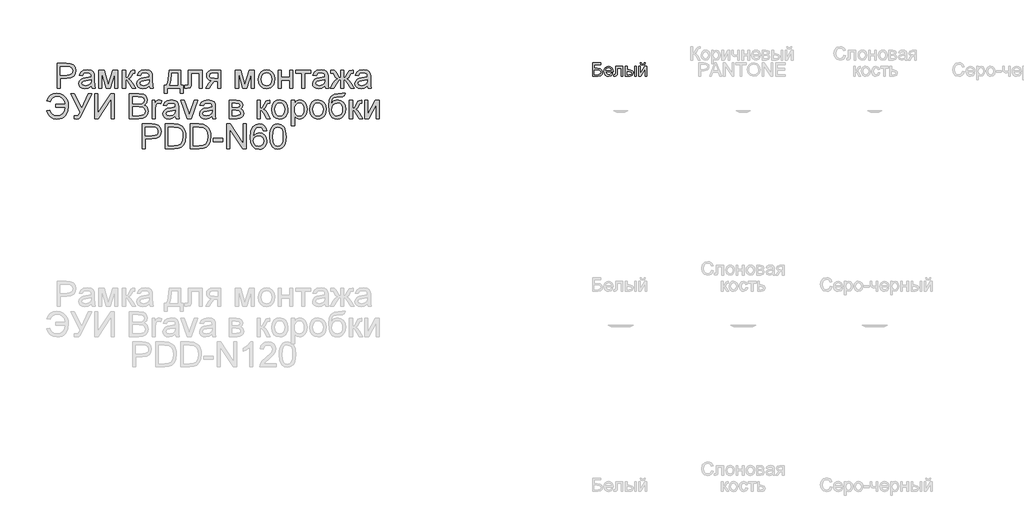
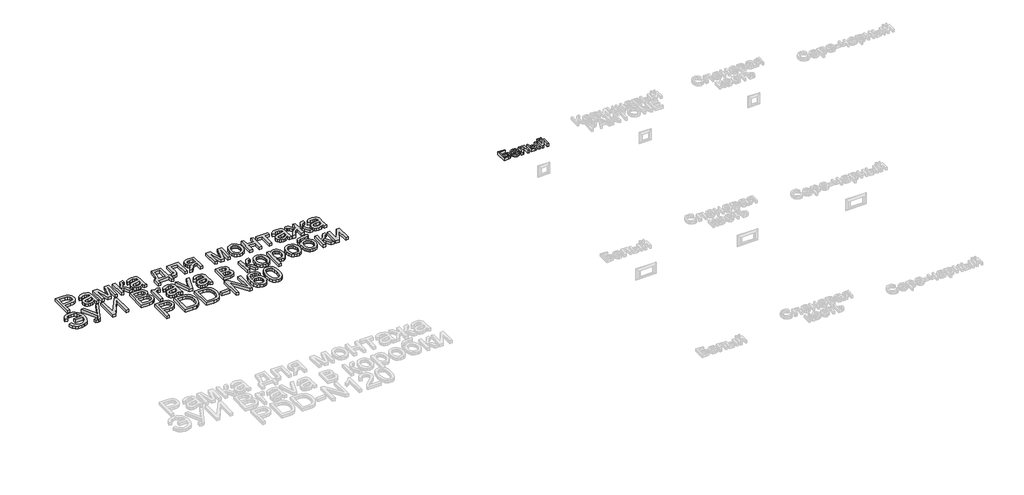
# One storey, part 43 of 47: 2 proxies.
"""IFC4 building model written with IfcOpenShell, lengths in millimetres."""

from ifc_helpers import new_model, si_unit, origin, origin_with_axes, place, context, project, spatial, polyline, outline, extrude, element, save

model = new_model("IFC4")

# Units and contexts
model_context = context("Model", 3, world=origin())
ifc_project = project(units=[si_unit("LENGTHUNIT", "METRE", prefix="MILLI")], contexts=[model_context])

# Site, building, storey
site = spatial("IfcSite", under=ifc_project)
building = spatial("IfcBuilding", under=site)
storey = spatial("IfcBuildingStorey", under=building, Name="Этаж 01", Elevation=0.0)

# Proxies
placement = place(None, origin())
element("IfcBuildingElementProxy", 1, Name="150 мм Arial", ObjectType="150 мм Arial", at=placement, inside=storey, context=model_context, shape_type="SweptSolid", body=[
    extrude(outline(polyline([(-3403.4986695, 4182.8209308), (-3403.4986695, 4333.505396), (-3347.6541827, 4333.505396), (-3325.1398046, 4332.0706562), (-3306.8376753, 4325.025716), (-3294.973481, 4310.457589), (-3290.4853206, 4289.9113796), (-3293.5157486, 4272.1518763), (-3302.6070324, 4257.353823), (-3319.6077791, 4247.3658268), (-3346.3665957, 4244.0364948), (-3384.6631114, 4244.0364948), (-3384.6631114, 4182.8209308), (-3403.4986695, 4182.8209308)]), holes=[polyline([(-3384.6631114, 4262.8720529), (-3345.2629497, 4262.8720529), (-3328.5611071, 4264.6010983), (-3317.5246473, 4269.7882344), (-3311.3718209, 4278.1115646), (-3309.3208788, 4289.249192), (-3314.158527, 4304.8473886), (-3326.8688499, 4313.3822509), (-3345.7044081, 4314.6698378), (-3384.6631114, 4314.6698378), (-3384.6631114, 4262.8720529)])]), origin_with_axes(), (0.0, 0.0, 1.0), 20.0),
    extrude(outline(polyline([(-3196.3075299, 4196.9475994), (-3214.5728709, 4184.1820942), (-3234.7511984, 4180.466486), (-3250.4919492, 4182.7013691), (-3262.1032247, 4189.4060185), (-3269.263128, 4199.5871527), (-3271.6497625, 4212.2514904), (-3268.0445189, 4227.1507112), (-3258.5715575, 4237.9664419), (-3245.382988, 4244.1468594), (-3229.0858156, 4246.9795507), (-3196.4178945, 4253.4542739), (-3196.3075299, 4257.6481286), (-3197.6043139, 4266.0542322), (-3201.494666, 4271.554068), (-3210.1950752, 4275.6375582), (-3222.3167869, 4276.9987215), (-3241.3730743, 4273.3750839), (-3250.4597595, 4260.5176082), (-3269.2953177, 4262.8720529), (-3261.1467315, 4281.2661527), (-3244.7391945, 4292.0450951), (-3219.8887657, 4295.8342797), (-3197.0616879, 4292.4865535), (-3184.167424, 4284.0804499), (-3178.3916767, 4271.2965506), (-3177.4719717, 4254.8154372), (-3177.4719717, 4231.3813541), (-3176.5154785, 4198.6582507), (-3172.7630822, 4182.8209308), (-3191.5986403, 4182.8209308), (-3196.3075299, 4196.9475994)]), holes=[polyline([(-3196.3075299, 4234.6187157), (-3226.6945827, 4228.8429684), (-3242.8997845, 4225.7895478), (-3250.2390304, 4220.8231409), (-3252.8142043, 4213.5758656), (-3247.2040039, 4203.3855343), (-3230.7412846, 4199.3020442), (-3211.6849973, 4203.8085986), (-3199.3977386, 4214.7162998), (-3196.4178945, 4229.2844268), (-3196.3075299, 4234.6187157)])]), origin_with_axes(), (0.0, 0.0, 1.0), 20.0),
    extrude(outline(polyline([(-3151.5730792, 4293.4798349), (-3119.1626755, 4293.4798349), (-3094.183488, 4204.8938505), (-3067.2545259, 4293.4798349), (-3036.2052856, 4293.4798349), (-3036.2052856, 4182.8209308), (-3055.0408437, 4182.8209308), (-3055.0408437, 4271.92195), (-3082.1169586, 4182.8209308), (-3106.8386286, 4182.8209308), (-3132.7375211, 4276.1893812), (-3132.7375211, 4182.8209308), (-3151.5730792, 4182.8209308), (-3151.5730792, 4293.4798349)])), origin_with_axes(), (0.0, 0.0, 1.0), 20.0),
    extrude(outline(polyline([(-3007.9519483, 4293.4798349), (-2989.1163902, 4293.4798349), (-2989.1163902, 4246.3909395), (-2976.4980377, 4249.7754539), (-2966.1605537, 4269.4939288), (-2957.5705091, 4286.5084711), (-2949.99214, 4292.0450951), (-2936.2149593, 4293.4798349), (-2932.6097157, 4293.4798349), (-2932.6097157, 4274.5339122), (-2937.6864872, 4274.6442768), (-2946.8835371, 4272.657714), (-2953.3582602, 4260.2600908), (-2960.9550234, 4246.850792), (-2971.6052072, 4240.2840984), (-2959.7226188, 4232.9540497), (-2948.0607595, 4217.5122029), (-2927.9008262, 4182.8209308), (-2949.3115583, 4182.8209308), (-2969.0668214, 4216.7764389), (-2978.9996353, 4231.1422308), (-2989.1163902, 4234.6187157), (-2989.1163902, 4182.8209308), (-3007.9519483, 4182.8209308), (-3007.9519483, 4293.4798349)])), origin_with_axes(), (0.0, 0.0, 1.0), 20.0),
    extrude(outline(polyline([(-2845.4952593, 4196.9475994), (-2863.7606003, 4184.1820942), (-2883.9389278, 4180.466486), (-2899.6796786, 4182.7013691), (-2911.2909541, 4189.4060185), (-2918.4508574, 4199.5871527), (-2920.8374919, 4212.2514904), (-2917.2322483, 4227.1507112), (-2907.7592869, 4237.9664419), (-2894.5707174, 4244.1468594), (-2878.273545, 4246.9795507), (-2845.6056239, 4253.4542739), (-2845.4952593, 4257.6481286), (-2846.7920433, 4266.0542322), (-2850.6823954, 4271.554068), (-2859.3828046, 4275.6375582), (-2871.5045163, 4276.9987215), (-2890.5608037, 4273.3750839), (-2899.6474889, 4260.5176082), (-2918.4830471, 4262.8720529), (-2910.3344609, 4281.2661527), (-2893.9269239, 4292.0450951), (-2869.0764951, 4295.8342797), (-2846.2494173, 4292.4865535), (-2833.3551534, 4284.0804499), (-2827.5794061, 4271.2965506), (-2826.6597011, 4254.8154372), (-2826.6597011, 4231.3813541), (-2825.7032079, 4198.6582507), (-2821.9508116, 4182.8209308), (-2840.7863697, 4182.8209308), (-2845.4952593, 4196.9475994)]), holes=[polyline([(-2845.4952593, 4234.6187157), (-2875.8823121, 4228.8429684), (-2892.0875139, 4225.7895478), (-2899.4267598, 4220.8231409), (-2902.0019337, 4213.5758656), (-2896.3917333, 4203.3855343), (-2879.929014, 4199.3020442), (-2860.8727267, 4203.8085986), (-2848.585468, 4214.7162998), (-2845.6056239, 4229.2844268), (-2845.4952593, 4234.6187157)])]), origin_with_axes(), (0.0, 0.0, 1.0), 20.0),
    extrude(outline(polyline([(-2725.418576, 4293.4798349), (-2654.785233, 4293.4798349), (-2654.785233, 4201.6564889), (-2640.6585643, 4201.6564889), (-2640.6585643, 4152.2131488), (-2659.4941225, 4152.2131488), (-2659.4941225, 4182.8209308), (-2737.1907999, 4182.8209308), (-2737.1907999, 4152.2131488), (-2756.026358, 4152.2131488), (-2756.026358, 4201.6564889), (-2744.2541342, 4201.6564889), (-2735.6962793, 4217.1213283), (-2729.7044013, 4237.5801658), (-2725.418576, 4293.4798349)]), holes=[polyline([(-2708.9374626, 4274.6442768), (-2713.3520466, 4231.730842), (-2723.0641313, 4201.6564889), (-2673.6207911, 4201.6564889), (-2673.6207911, 4274.6442768), (-2708.9374626, 4274.6442768)])]), origin_with_axes(), (0.0, 0.0, 1.0), 20.0),
    extrude(outline(polyline([(-2610.0507823, 4293.4798349), (-2525.2907707, 4293.4798349), (-2525.2907707, 4182.9312954), (-2544.1263288, 4182.9312954), (-2544.1263288, 4274.6442768), (-2591.2152242, 4274.6442768), (-2591.2152242, 4221.8532105), (-2592.4844171, 4197.4994224), (-2599.4557809, 4187.2171206), (-2615.9368943, 4182.8209308), (-2631.2407853, 4183.777424), (-2631.2407853, 4201.6564889), (-2622.8162876, 4201.6564889), (-2614.2998194, 4202.8153172), (-2610.8969109, 4206.4941372), (-2610.0507823, 4222.9200683), (-2610.0507823, 4293.4798349)])), origin_with_axes(), (0.0, 0.0, 1.0), 20.0),
    extrude(outline(polyline([(-2412.2774217, 4293.4798349), (-2412.2774217, 4182.8209308), (-2431.1129799, 4182.8209308), (-2431.1129799, 4225.2009366), (-2441.3768876, 4225.2009366), (-2455.3564034, 4222.8097037), (-2468.4897906, 4206.7332605), (-2483.499376, 4182.8209308), (-2505.2779901, 4182.8209308), (-2486.3688556, 4213.0608308), (-2478.0179343, 4223.9133496), (-2470.3292006, 4228.7326038), (-2483.2050704, 4232.6781382), (-2492.2549675, 4240.1737338), (-2497.6076505, 4250.1433359), (-2499.3918782, 4261.5108895), (-2496.95466, 4274.4051535), (-2489.6430053, 4284.6138788), (-2477.7144316, 4291.2633459), (-2461.4264563, 4293.4798349), (-2412.2774217, 4293.4798349)]), holes=[polyline([(-2431.1129799, 4274.6442768), (-2455.9450146, 4274.6442768), (-2468.7703006, 4273.5544264), (-2476.0497656, 4270.2848751), (-2480.55632, 4260.0761498), (-2478.8962525, 4252.8978523), (-2473.91605, 4247.9176498), (-2450.3899964, 4244.0364948), (-2431.1129799, 4244.0364948), (-2431.1129799, 4274.6442768)])]), origin_with_axes(), (0.0, 0.0, 1.0), 20.0),
    extrude(outline(polyline([(-2325.1629653, 4293.4798349), (-2292.7525615, 4293.4798349), (-2267.773374, 4204.8938505), (-2240.844412, 4293.4798349), (-2209.7951716, 4293.4798349), (-2209.7951716, 4182.8209308), (-2228.6307297, 4182.8209308), (-2228.6307297, 4271.92195), (-2255.7068446, 4182.8209308), (-2280.4285147, 4182.8209308), (-2306.3274071, 4276.1893812), (-2306.3274071, 4182.8209308), (-2325.1629653, 4182.8209308), (-2325.1629653, 4293.4798349)])), origin_with_axes(), (0.0, 0.0, 1.0), 20.0),
    extrude(outline(polyline([(-2186.2507239, 4238.1503829), (-2182.1764308, 4264.8310246), (-2169.9535515, 4283.5838093), (-2154.8519956, 4292.7716621), (-2136.7705955, 4295.8342797), (-2116.9831427, 4292.104876), (-2101.1780125, 4280.9166648), (-2090.8175358, 4263.1525629), (-2087.3640436, 4239.6954872), (-2088.8907539, 4220.666791), (-2093.4708847, 4206.1814375), (-2100.9710789, 4195.3335171), (-2111.2579792, 4187.2171206), (-2123.4762599, 4182.1541447), (-2136.7705955, 4180.466486), (-2156.7971717, 4184.1820942), (-2172.5839078, 4195.3289186), (-2182.8340199, 4213.465501), (-2186.2507239, 4238.1503829)]), holes=[polyline([(-2167.4151657, 4238.1871711), (-2165.2354649, 4221.1404391), (-2158.6963625, 4208.9957347), (-2148.8555191, 4201.7254668), (-2136.7705955, 4199.3020442), (-2124.7408543, 4201.7392624), (-2114.918405, 4209.050917), (-2108.3793026, 4221.3565698), (-2106.1996018, 4238.7757822), (-2108.3930981, 4255.3258735), (-2114.9735873, 4267.305031), (-2124.8098322, 4274.5752989), (-2136.7705955, 4276.9987215), (-2148.8555191, 4274.5844959), (-2158.6963625, 4267.3418192), (-2165.2354649, 4255.224706), (-2167.4151657, 4238.1871711)])]), origin_with_axes(), (0.0, 0.0, 1.0), 20.0),
    extrude(outline(polyline([(-2066.1740407, 4293.4798349), (-2047.3384825, 4293.4798349), (-2047.3384825, 4251.0998291), (-1997.8951424, 4251.0998291), (-1997.8951424, 4293.4798349), (-1979.0595842, 4293.4798349), (-1979.0595842, 4182.8209308), (-1997.8951424, 4182.8209308), (-1997.8951424, 4232.2642709), (-2047.3384825, 4232.2642709), (-2047.3384825, 4182.8209308), (-2066.1740407, 4182.8209308), (-2066.1740407, 4293.4798349)])), origin_with_axes(), (0.0, 0.0, 1.0), 20.0),
    extrude(outline(polyline([(-1960.2240261, 4293.4798349), (-1870.7551248, 4293.4798349), (-1870.7551248, 4274.6442768), (-1906.0717964, 4274.6442768), (-1906.0717964, 4182.8209308), (-1924.9073545, 4182.8209308), (-1924.9073545, 4274.6442768), (-1960.2240261, 4274.6442768), (-1960.2240261, 4293.4798349)])), origin_with_axes(), (0.0, 0.0, 1.0), 20.0),
    extrude(outline(polyline([(-1783.6406684, 4196.9475994), (-1801.9060094, 4184.1820942), (-1822.0843369, 4180.466486), (-1837.8250877, 4182.7013691), (-1849.4363632, 4189.4060185), (-1856.5962665, 4199.5871527), (-1858.982901, 4212.2514904), (-1855.3776574, 4227.1507112), (-1845.9046961, 4237.9664419), (-1832.7161265, 4244.1468594), (-1816.4189541, 4246.9795507), (-1783.751033, 4253.4542739), (-1783.6406684, 4257.6481286), (-1784.9374524, 4266.0542322), (-1788.8278045, 4271.554068), (-1797.5282137, 4275.6375582), (-1809.6499254, 4276.9987215), (-1828.7062128, 4273.3750839), (-1837.7928981, 4260.5176082), (-1856.6284562, 4262.8720529), (-1848.47987, 4281.2661527), (-1832.072333, 4292.0450951), (-1807.2219043, 4295.8342797), (-1784.3948265, 4292.4865535), (-1771.5005625, 4284.0804499), (-1765.7248152, 4271.2965506), (-1764.8051102, 4254.8154372), (-1764.8051102, 4231.3813541), (-1763.848617, 4198.6582507), (-1760.0962207, 4182.8209308), (-1778.9317788, 4182.8209308), (-1783.6406684, 4196.9475994)]), holes=[polyline([(-1783.6406684, 4234.6187157), (-1814.0277212, 4228.8429684), (-1830.2329231, 4225.7895478), (-1837.5721689, 4220.8231409), (-1840.1473428, 4213.5758656), (-1834.5371424, 4203.3855343), (-1818.0744231, 4199.3020442), (-1799.0181358, 4203.8085986), (-1786.7308771, 4214.7162998), (-1783.751033, 4229.2844268), (-1783.6406684, 4234.6187157)])]), origin_with_axes(), (0.0, 0.0, 1.0), 20.0),
    extrude(outline(polyline([(-1670.6273195, 4293.4798349), (-1670.6273195, 4246.3909395), (-1659.6460419, 4250.2720946), (-1649.2533755, 4270.4136338), (-1636.8557523, 4289.7274386), (-1619.2342047, 4293.4798349), (-1611.7662002, 4293.4798349), (-1611.7662002, 4274.5339122), (-1616.9533364, 4274.6442768), (-1626.665421, 4272.6945022), (-1633.3976615, 4260.48082), (-1641.2151539, 4247.0899153), (-1652.3803725, 4240.2840984), (-1640.0655227, 4232.9540497), (-1628.0633726, 4217.5122029), (-1607.0573107, 4182.8209308), (-1628.6519838, 4182.8209308), (-1649.3269519, 4217.0339563), (-1659.8667711, 4231.2525954), (-1670.6273195, 4234.6187157), (-1670.6273195, 4182.8209308), (-1689.4628776, 4182.8209308), (-1689.4628776, 4234.6187157), (-1700.1866378, 4231.3261718), (-1710.8000333, 4217.1075327), (-1731.4750015, 4182.8209308), (-1753.0328864, 4182.8209308), (-1732.1004009, 4217.5122029), (-1720.0062803, 4232.9540497), (-1707.6362482, 4240.2840984), (-1719.4820484, 4247.7888911), (-1729.6355915, 4267.1026959), (-1734.6019984, 4273.4670544), (-1742.7321905, 4274.7546414), (-1748.3239968, 4274.6442768), (-1748.3239968, 4293.4798349), (-1745.4913055, 4293.4798349), (-1728.9734039, 4292.3026125), (-1720.4017534, 4287.2994174), (-1710.8000333, 4270.4136338), (-1700.5177316, 4250.4008533), (-1689.4628776, 4246.3909395), (-1689.4628776, 4293.4798349), (-1670.6273195, 4293.4798349)])), origin_with_axes(), (0.0, 0.0, 1.0), 20.0),
    extrude(outline(polyline([(-1527.0061885, 4196.9475994), (-1545.2715296, 4184.1820942), (-1565.449857, 4180.466486), (-1581.1906079, 4182.7013691), (-1592.8018834, 4189.4060185), (-1599.9617867, 4199.5871527), (-1602.3484212, 4212.2514904), (-1598.7431776, 4227.1507112), (-1589.2702162, 4237.9664419), (-1576.0816467, 4244.1468594), (-1559.7844743, 4246.9795507), (-1527.1165531, 4253.4542739), (-1527.0061885, 4257.6481286), (-1528.3029726, 4266.0542322), (-1532.1933247, 4271.554068), (-1540.8937339, 4275.6375582), (-1553.0154456, 4276.9987215), (-1572.071733, 4273.3750839), (-1581.1584182, 4260.5176082), (-1599.9939764, 4262.8720529), (-1591.8453902, 4281.2661527), (-1575.4378532, 4292.0450951), (-1550.5874244, 4295.8342797), (-1527.7603466, 4292.4865535), (-1514.8660827, 4284.0804499), (-1509.0903354, 4271.2965506), (-1508.1706304, 4254.8154372), (-1508.1706304, 4231.3813541), (-1507.2141372, 4198.6582507), (-1503.4617409, 4182.8209308), (-1522.297299, 4182.8209308), (-1527.0061885, 4196.9475994)]), holes=[polyline([(-1527.0061885, 4234.6187157), (-1557.3932413, 4228.8429684), (-1573.5984432, 4225.7895478), (-1580.937689, 4220.8231409), (-1583.512863, 4213.5758656), (-1577.9026626, 4203.3855343), (-1561.4399433, 4199.3020442), (-1542.3836559, 4203.8085986), (-1530.0963973, 4214.7162998), (-1527.1165531, 4229.2844268), (-1527.0061885, 4234.6187157)])]), origin_with_axes(), (0.0, 0.0, 1.0), 20.0),
    extrude(outline(polyline([(-3410.5620038, 4086.9731605), (-3354.0553294, 4086.9731605), (-3358.2031989, 4106.4019283), (-3368.1452098, 4121.3517329), (-3383.4307067, 4130.8844751), (-3403.6090341, 4134.0620559), (-3418.8186554, 4132.1490695), (-3430.9334693, 4126.4101104), (-3439.953476, 4116.8451785), (-3445.8786754, 4103.4542739), (-3464.7142335, 4108.1631634), (-3456.6576178, 4126.906751), (-3443.5242306, 4141.0518138), (-3425.9486683, 4149.9361639), (-3404.5655273, 4152.897614), (-3384.0285149, 4150.1798858), (-3366.5633172, 4142.026701), (-3352.6895675, 4129.6474719), (-3342.926899, 4114.2516104), (-3337.1465532, 4096.4507204), (-3335.2197712, 4076.8564056), (-3338.7054531, 4045.9681136), (-3351.4433672, 4020.4049134), (-3361.2635172, 4010.3858772), (-3373.3599371, 4003.2294228), (-3387.7326268, 3998.9355501), (-3404.3815863, 3997.5042592), (-3426.9235556, 4000.594468), (-3444.885394, 4009.8650943), (-3458.2671016, 4025.3161381), (-3467.0686783, 4046.9475994), (-3448.2331202, 4051.6564889), (-3441.8687616, 4036.2054451), (-3432.0831006, 4025.1689853), (-3418.8761369, 4018.5471094), (-3402.2478708, 4016.3398174), (-3383.4674949, 4019.8071052), (-3368.4027272, 4030.2089686), (-3358.2123959, 4046.6257026), (-3354.0553294, 4068.1376023), (-3410.5620038, 4068.1376023), (-3410.5620038, 4086.9731605)])), origin_with_axes(), (0.0, 0.0, 1.0), 20.0),
    extrude(outline(polyline([(-3319.9158802, 4150.5431692), (-3299.0569711, 4150.5431692), (-3253.9914267, 4061.2949972), (-3213.4508308, 4150.5431692), (-3192.7758627, 4150.5431692), (-3249.981513, 4033.1520246), (-3265.5429214, 4004.3100762), (-3272.9281524, 3999.2057135), (-3282.9437397, 3997.5042592), (-3299.9030997, 3999.858704), (-3299.9030997, 4016.3398174), (-3285.0774553, 4016.3398174), (-3274.0777836, 4020.5336721), (-3263.8874524, 4039.6267477), (-3319.9158802, 4150.5431692)])), origin_with_axes(), (0.0, 0.0, 1.0), 20.0),
    extrude(outline(polyline([(-3175.1175269, 4150.5431692), (-3156.2819688, 4150.5431692), (-3156.2819688, 4031.20225), (-3077.408069, 4150.5431692), (-3057.3952885, 4150.5431692), (-3057.3952885, 3999.858704), (-3076.2308466, 3999.858704), (-3076.2308466, 4118.8685294), (-3154.9208054, 3999.858704), (-3175.1175269, 3999.858704), (-3175.1175269, 4150.5431692)])), origin_with_axes(), (0.0, 0.0, 1.0), 20.0),
    extrude(outline(polyline([(-2965.5719425, 3999.858704), (-2965.5719425, 4150.5431692), (-2908.0719866, 4150.5431692), (-2879.9106199, 4146.1101912), (-2870.4468556, 4140.4861952), (-2863.2823537, 4132.4801633), (-2857.2674831, 4113.2031467), (-2862.3258605, 4095.5999933), (-2877.6113574, 4082.2642709), (-2866.9381811, 4076.6908587), (-2859.0517108, 4068.2111787), (-2854.1818729, 4057.386251), (-2852.5585936, 4044.7770956), (-2856.9915716, 4024.5251918), (-2867.9728492, 4010.1042176), (-2884.361992, 4002.4522721), (-2908.513445, 3999.858704), (-2965.5719425, 3999.858704)]), holes=[polyline([(-2946.7363843, 4089.3276052), (-2912.3394178, 4089.3276052), (-2892.2530608, 4090.946286), (-2880.1681373, 4097.9176498), (-2876.1030413, 4110.1865144), (-2879.8922258, 4122.473773), (-2890.7447447, 4129.7394424), (-2914.9513799, 4131.7076111), (-2946.7363843, 4131.7076111), (-2946.7363843, 4089.3276052)]), polyline([(-2946.7363843, 4018.6942622), (-2908.1087748, 4018.6942622), (-2894.129259, 4019.4300262), (-2882.3018529, 4023.5319104), (-2874.4659664, 4031.9012258), (-2871.3941517, 4044.5931546), (-2874.9993953, 4059.234858), (-2886.6796486, 4067.9720554), (-2909.9481848, 4070.4920471), (-2946.7363843, 4070.4920471), (-2946.7363843, 4018.6942622)])]), origin_with_axes(), (0.0, 0.0, 1.0), 20.0),
    extrude(outline(polyline([(-2829.0141459, 3999.858704), (-2829.0141459, 4110.5176082), (-2812.5330325, 4110.5176082), (-2812.5330325, 4094.1468594), (-2800.834385, 4109.2300212), (-2789.0621612, 4112.8720529), (-2770.1530266, 4107.0595174), (-2776.4438088, 4090.1737338), (-2789.6875606, 4094.0364948), (-2800.3377443, 4090.3208866), (-2807.1251672, 4080.0201908), (-2810.1785877, 4058.0208474), (-2810.1785877, 3999.858704), (-2829.0141459, 3999.858704)])), origin_with_axes(), (0.0, 0.0, 1.0), 20.0),
    extrude(outline(polyline([(-2687.7474597, 4013.9853726), (-2706.0128008, 4001.2198674), (-2726.1911282, 3997.5042592), (-2741.9318791, 3999.7391424), (-2753.5431546, 4006.4437917), (-2760.7030579, 4016.6249259), (-2763.0896923, 4029.2892636), (-2759.4844488, 4044.1884844), (-2750.0114874, 4055.0042151), (-2736.8229179, 4061.1846326), (-2720.5257455, 4064.017324), (-2687.8578243, 4070.4920471), (-2687.7474597, 4074.6859018), (-2689.0442438, 4083.0920054), (-2692.9345959, 4088.5918412), (-2701.635005, 4092.6753314), (-2713.7567168, 4094.0364948), (-2732.8130041, 4090.4128571), (-2741.8996894, 4077.5553814), (-2760.7352476, 4079.9098262), (-2752.5866614, 4098.3039259), (-2736.1791244, 4109.0828684), (-2711.3286956, 4112.8720529), (-2688.5016178, 4109.5243268), (-2675.6073539, 4101.1182232), (-2669.8316066, 4088.3343238), (-2668.9119016, 4071.8532105), (-2668.9119016, 4048.4191274), (-2667.9554084, 4015.6960239), (-2664.203012, 3999.858704), (-2683.0385702, 3999.858704), (-2687.7474597, 4013.9853726)]), holes=[polyline([(-2687.7474597, 4051.6564889), (-2718.1345125, 4045.8807416), (-2734.3397144, 4042.827321), (-2741.6789602, 4037.8609141), (-2744.2541342, 4030.6136388), (-2738.6439338, 4020.4233075), (-2722.1812145, 4016.3398174), (-2703.1249271, 4020.8463718), (-2690.8376685, 4031.754073), (-2687.8578243, 4046.3222), (-2687.7474597, 4051.6564889)])]), origin_with_axes(), (0.0, 0.0, 1.0), 20.0),
    extrude(outline(polyline([(-2615.8633179, 3999.858704), (-2654.785233, 4110.5176082), (-2634.8460288, 4110.5176082), (-2611.2647929, 4044.2252726), (-2604.1646704, 4021.9316237), (-2597.2117007, 4042.9744738), (-2573.483312, 4110.5176082), (-2553.5441079, 4110.5176082), (-2591.9877764, 3999.858704), (-2615.8633179, 3999.858704)])), origin_with_axes(), (0.0, 0.0, 1.0), 20.0),
    extrude(outline(polyline([(-2466.4296514, 4013.9853726), (-2484.6949925, 4001.2198674), (-2504.8733199, 3997.5042592), (-2520.6140708, 3999.7391424), (-2532.2253463, 4006.4437917), (-2539.3852496, 4016.6249259), (-2541.771884, 4029.2892636), (-2538.1666405, 4044.1884844), (-2528.6936791, 4055.0042151), (-2515.5051096, 4061.1846326), (-2499.2079372, 4064.017324), (-2466.540016, 4070.4920471), (-2466.4296514, 4074.6859018), (-2467.7264355, 4083.0920054), (-2471.6167876, 4088.5918412), (-2480.3171967, 4092.6753314), (-2492.4389085, 4094.0364948), (-2511.4951958, 4090.4128571), (-2520.5818811, 4077.5553814), (-2539.4174393, 4079.9098262), (-2531.2688531, 4098.3039259), (-2514.8613161, 4109.0828684), (-2490.0108873, 4112.8720529), (-2467.1838095, 4109.5243268), (-2454.2895456, 4101.1182232), (-2448.5137983, 4088.3343238), (-2447.5940933, 4071.8532105), (-2447.5940933, 4048.4191274), (-2446.6376001, 4015.6960239), (-2442.8852037, 3999.858704), (-2461.7207619, 3999.858704), (-2466.4296514, 4013.9853726)]), holes=[polyline([(-2466.4296514, 4051.6564889), (-2496.8167042, 4045.8807416), (-2513.0219061, 4042.827321), (-2520.3611519, 4037.8609141), (-2522.9363259, 4030.6136388), (-2517.3261255, 4020.4233075), (-2500.8634062, 4016.3398174), (-2481.8071188, 4020.8463718), (-2469.5198602, 4031.754073), (-2466.540016, 4046.3222), (-2466.4296514, 4051.6564889)])]), origin_with_axes(), (0.0, 0.0, 1.0), 20.0),
    extrude(outline(polyline([(-2362.8340816, 4110.5176082), (-2321.3369925, 4110.5176082), (-2298.5834911, 4107.9976165), (-2285.7811977, 4098.7637784), (-2280.4285147, 4082.6689411), (-2283.6658762, 4069.5907362), (-2293.4147491, 4060.2649276), (-2280.7596085, 4050.0562023), (-2275.7196251, 4032.305896), (-2278.9110014, 4017.9493011), (-2286.4985676, 4007.8417433), (-2298.5099147, 4001.8544638), (-2314.972634, 3999.858704), (-2362.8340816, 3999.858704), (-2362.8340816, 4110.5176082)]), holes=[polyline([(-2343.9985234, 4068.1376023), (-2325.3836945, 4068.1376023), (-2310.0246212, 4069.0940955), (-2302.5566167, 4072.9200683), (-2299.2640728, 4079.8362498), (-2300.7080096, 4085.4556472), (-2305.0398201, 4089.0700878), (-2324.7950833, 4091.68205), (-2343.9985234, 4091.68205), (-2343.9985234, 4068.1376023)]), polyline([(-2343.9985234, 4018.6942622), (-2320.8955341, 4018.6942622), (-2300.404507, 4022.0971706), (-2296.164667, 4026.7370823), (-2294.5551833, 4033.8510004), (-2297.7741507, 4042.9192915), (-2306.1618602, 4048.1983982), (-2322.7349441, 4049.3020442), (-2343.9985234, 4049.3020442), (-2343.9985234, 4018.6942622)])]), origin_with_axes(), (0.0, 0.0, 1.0), 20.0),
    extrude(outline(polyline([(-2193.3140582, 4110.5176082), (-2174.4785001, 4110.5176082), (-2174.4785001, 4063.4287128), (-2161.8601476, 4066.8132271), (-2151.5226636, 4086.5317021), (-2142.932619, 4103.5462444), (-2135.3542499, 4109.0828684), (-2121.5770691, 4110.5176082), (-2117.9718256, 4110.5176082), (-2117.9718256, 4091.5716854), (-2123.0485971, 4091.68205), (-2132.245647, 4089.6954872), (-2138.7203701, 4077.297864), (-2146.3171333, 4063.8885653), (-2156.9673171, 4057.3218717), (-2145.0847286, 4049.9918229), (-2133.4228694, 4034.5499762), (-2113.2629361, 3999.858704), (-2134.6736682, 3999.858704), (-2154.4289313, 4033.8142122), (-2164.3617452, 4048.1800041), (-2174.4785001, 4051.6564889), (-2174.4785001, 3999.858704), (-2193.3140582, 3999.858704), (-2193.3140582, 4110.5176082)])), origin_with_axes(), (0.0, 0.0, 1.0), 20.0),
    extrude(outline(polyline([(-2106.1996018, 4055.1881561), (-2102.1253087, 4081.8687978), (-2089.9024294, 4100.6215825), (-2074.8008735, 4109.8094353), (-2056.7194734, 4112.8720529), (-2036.9320206, 4109.1426492), (-2021.1268904, 4097.954438), (-2010.7664137, 4080.1903362), (-2007.3129214, 4056.7332605), (-2008.8396317, 4037.7045643), (-2013.4197626, 4023.2192107), (-2020.9199567, 4012.3712904), (-2031.206857, 4004.2548939), (-2043.4251378, 3999.1919179), (-2056.7194734, 3997.5042592), (-2076.7460495, 4001.2198674), (-2092.5327856, 4012.3666918), (-2102.7828977, 4030.5032742), (-2106.1996018, 4055.1881561)]), holes=[polyline([(-2087.3640436, 4055.2249443), (-2085.1843428, 4038.1782123), (-2078.6452403, 4026.033508), (-2068.8043969, 4018.76324), (-2056.7194734, 4016.3398174), (-2044.6897322, 4018.7770356), (-2034.8672829, 4026.0886903), (-2028.3281804, 4038.394343), (-2026.1484796, 4055.8135555), (-2028.341976, 4072.3636467), (-2034.9224652, 4084.3428042), (-2044.75871, 4091.6130721), (-2056.7194734, 4094.0364948), (-2068.8043969, 4091.6222692), (-2078.6452403, 4084.3795924), (-2085.1843428, 4072.2624792), (-2087.3640436, 4055.2249443)])]), origin_with_axes(), (0.0, 0.0, 1.0), 20.0),
    extrude(outline(polyline([(-1986.1229185, 3957.4786982), (-1986.1229185, 4110.5176082), (-1967.2873604, 4110.5176082), (-1967.2873604, 4092.049932), (-1954.2643377, 4107.6665227), (-1936.6795784, 4112.8720529), (-1923.9416643, 4111.0510371), (-1912.8040369, 4105.5879894), (-1903.7357457, 4096.8140038), (-1897.2058403, 4085.0601741), (-1891.9451278, 4056.0342847), (-1893.4304513, 4039.9256518), (-1897.886422, 4025.5184732), (-1905.1704855, 4013.5439142), (-1915.1400876, 4004.7331404), (-1926.751363, 3999.3114795), (-1938.9604467, 3997.5042592), (-1955.3495896, 4002.3419075), (-1967.2873604, 4014.5739838), (-1967.2873604, 3957.4786982), (-1986.1229185, 3957.4786982)]), holes=[polyline([(-1967.2873604, 4054.3052393), (-1965.2502138, 4037.4194557), (-1959.1387742, 4025.6104437), (-1950.1210668, 4018.657474), (-1939.3651169, 4016.3398174), (-1928.4344232, 4018.7402474), (-1919.1867895, 4025.9415375), (-1912.8822118, 4038.1828109), (-1910.7806859, 4055.7031909), (-1912.831628, 4072.497004), (-1918.9844544, 4084.4715629), (-1927.9883662, 4091.6452618), (-1938.5925647, 4094.0364948), (-1949.23815, 4091.4935105), (-1958.5869512, 4083.8645576), (-1965.1122581, 4071.3887594), (-1967.2873604, 4054.3052393)])]), origin_with_axes(), (0.0, 0.0, 1.0), 20.0),
    extrude(outline(polyline([(-1875.4640144, 4055.1881561), (-1871.3897213, 4081.8687978), (-1859.166842, 4100.6215825), (-1844.0652861, 4109.8094353), (-1825.983886, 4112.8720529), (-1806.1964332, 4109.1426492), (-1790.391303, 4097.954438), (-1780.0308263, 4080.1903362), (-1776.5773341, 4056.7332605), (-1778.1040444, 4037.7045643), (-1782.6841752, 4023.2192107), (-1790.1843694, 4012.3712904), (-1800.4712697, 4004.2548939), (-1812.6895504, 3999.1919179), (-1825.983886, 3997.5042592), (-1846.0104621, 4001.2198674), (-1861.7971983, 4012.3666918), (-1872.0473103, 4030.5032742), (-1875.4640144, 4055.1881561)]), holes=[polyline([(-1856.6284562, 4055.2249443), (-1854.4487554, 4038.1782123), (-1847.9096529, 4026.033508), (-1838.0688096, 4018.76324), (-1825.983886, 4016.3398174), (-1813.9541448, 4018.7770356), (-1804.1316955, 4026.0886903), (-1797.592593, 4038.394343), (-1795.4128922, 4055.8135555), (-1797.6063886, 4072.3636467), (-1804.1868778, 4084.3428042), (-1814.0231227, 4091.6130721), (-1825.983886, 4094.0364948), (-1838.0688096, 4091.6222692), (-1847.9096529, 4084.3795924), (-1854.4487554, 4072.2624792), (-1856.6284562, 4055.2249443)])]), origin_with_axes(), (0.0, 0.0, 1.0), 20.0),
    extrude(outline(polyline([(-1677.6906538, 4152.897614), (-1661.2095404, 4152.897614), (-1666.0655827, 4138.2007283), (-1675.6673028, 4132.8848335), (-1698.7335039, 4131.7076111), (-1729.8011384, 4127.3666035), (-1736.928852, 4121.7196149), (-1741.720515, 4113.4606641), (-1745.7488229, 4088.8493586), (-1729.4332564, 4106.8755764), (-1719.5142381, 4111.3729338), (-1708.4088004, 4112.8720529), (-1688.8098871, 4109.0598758), (-1672.9081878, 4097.6233442), (-1662.3683687, 4079.6844984), (-1658.8550956, 4056.3653785), (-1660.5979366, 4038.385146), (-1665.8264594, 4023.9549747), (-1682.3627551, 4004.4020467), (-1693.6567324, 3999.2287061), (-1708.4088004, 3997.5042592), (-1725.4095471, 3999.7253468), (-1738.1520597, 4006.3886094), (-1747.528452, 4016.5145613), (-1754.430838, 4029.1237167), (-1758.679875, 4048.1110262), (-1760.0962207, 4077.3714404), (-1756.5231668, 4113.5112479), (-1745.8040052, 4135.5519779), (-1727.6720213, 4146.7953714), (-1701.8605009, 4150.5431692), (-1680.8912271, 4150.9662335), (-1677.6906538, 4152.897614)]), holes=[polyline([(-1677.6906538, 4056.9539897), (-1679.7323988, 4071.7750355), (-1685.8576341, 4083.6438284), (-1695.6984774, 4091.4383282), (-1708.887047, 4094.0364948), (-1722.6366365, 4091.2911754), (-1732.8361648, 4083.0552172), (-1739.1545381, 4070.2299312), (-1741.2606625, 4053.7166281), (-1738.9338089, 4037.7091628), (-1731.9532481, 4025.9599316), (-1721.5605817, 4018.7448459), (-1708.9974116, 4016.3398174), (-1696.3698621, 4019.121925), (-1686.3726689, 4027.4682477), (-1679.8611575, 4040.4038984), (-1677.6906538, 4056.9539897)])]), origin_with_axes(), (0.0, 0.0, 1.0), 20.0),
    extrude(outline(polyline([(-1635.3106479, 4110.5176082), (-1616.4750898, 4110.5176082), (-1616.4750898, 4063.4287128), (-1603.8567373, 4066.8132271), (-1593.5192533, 4086.5317021), (-1584.9292087, 4103.5462444), (-1577.3508396, 4109.0828684), (-1563.5736589, 4110.5176082), (-1559.9684153, 4110.5176082), (-1559.9684153, 4091.5716854), (-1565.0451868, 4091.68205), (-1574.2422367, 4089.6954872), (-1580.7169598, 4077.297864), (-1588.313723, 4063.8885653), (-1598.9639068, 4057.3218717), (-1587.0813184, 4049.9918229), (-1575.4194591, 4034.5499762), (-1555.2595258, 3999.858704), (-1576.6702579, 3999.858704), (-1596.425521, 4033.8142122), (-1606.3583349, 4048.1800041), (-1616.4750898, 4051.6564889), (-1616.4750898, 3999.858704), (-1635.3106479, 3999.858704), (-1635.3106479, 4110.5176082)])), origin_with_axes(), (0.0, 0.0, 1.0), 20.0),
    extrude(outline(polyline([(-1543.4873019, 4110.5176082), (-1524.6517438, 4110.5176082), (-1524.6517438, 4026.1254785), (-1478.3721888, 4110.5176082), (-1454.0184007, 4110.5176082), (-1454.0184007, 3999.858704), (-1472.8539589, 3999.858704), (-1472.8539589, 4083.7357989), (-1518.8392083, 3999.858704), (-1543.4873019, 3999.858704), (-1543.4873019, 4110.5176082)])), origin_with_axes(), (0.0, 0.0, 1.0), 20.0),
    extrude(outline(polyline([(-2887.8752651, 3816.8964772), (-2887.8752651, 3967.5809425), (-2832.0307782, 3967.5809425), (-2809.5164001, 3966.1462027), (-2791.2142709, 3959.1012625), (-2779.3500765, 3944.5331355), (-2774.8619162, 3923.986926), (-2777.8923441, 3906.2274227), (-2786.9836279, 3891.4293695), (-2803.9843746, 3881.4413733), (-2830.7431913, 3878.1120412), (-2869.0397069, 3878.1120412), (-2869.0397069, 3816.8964772), (-2887.8752651, 3816.8964772)]), holes=[polyline([(-2869.0397069, 3896.9475994), (-2829.6395453, 3896.9475994), (-2812.9377027, 3898.6766448), (-2801.9012428, 3903.8637809), (-2795.7484165, 3912.187111), (-2793.6974743, 3923.3247384), (-2798.5351226, 3938.922935), (-2811.2454455, 3947.4577973), (-2830.0810037, 3948.7453843), (-2869.0397069, 3948.7453843), (-2869.0397069, 3896.9475994)])]), origin_with_axes(), (0.0, 0.0, 1.0), 20.0),
    extrude(outline(polyline([(-2748.9630237, 3816.8964772), (-2748.9630237, 3967.5809425), (-2696.9812978, 3967.5809425), (-2670.089124, 3965.4104387), (-2647.9426278, 3954.6314962), (-2637.5223703, 3943.153578), (-2630.1003511, 3928.8797566), (-2625.658176, 3912.0859435), (-2624.177451, 3893.0480502), (-2628.1873647, 3862.6426033), (-2638.4880606, 3840.6984423), (-2652.2468472, 3827.0316262), (-2670.2546709, 3819.4716512), (-2694.4797002, 3816.8964772), (-2748.9630237, 3816.8964772)]), holes=[polyline([(-2730.1274656, 3835.7320354), (-2696.7973568, 3835.7320354), (-2672.5539333, 3838.4543622), (-2658.5744175, 3846.1430959), (-2647.1148934, 3864.8498953), (-2643.0130091, 3893.3423558), (-2645.0225645, 3913.8701712), (-2651.0512307, 3929.0269094), (-2659.9585735, 3939.4379698), (-2670.6041588, 3945.728752), (-2697.3123916, 3948.7453843), (-2730.1274656, 3948.7453843), (-2730.1274656, 3835.7320354)])]), origin_with_axes(), (0.0, 0.0, 1.0), 20.0),
    extrude(outline(polyline([(-2598.2785585, 3816.8964772), (-2598.2785585, 3967.5809425), (-2546.2968326, 3967.5809425), (-2519.4046587, 3965.4104387), (-2497.2581626, 3954.6314962), (-2486.8379051, 3943.153578), (-2479.4158859, 3928.8797566), (-2474.9737108, 3912.0859435), (-2473.4929857, 3893.0480502), (-2477.5028995, 3862.6426033), (-2487.8035953, 3840.6984423), (-2501.562382, 3827.0316262), (-2519.5702056, 3819.4716512), (-2543.795235, 3816.8964772), (-2598.2785585, 3816.8964772)]), holes=[polyline([(-2579.4430003, 3835.7320354), (-2546.1128916, 3835.7320354), (-2521.8694681, 3838.4543622), (-2507.8899523, 3846.1430959), (-2496.4304281, 3864.8498953), (-2492.3285439, 3893.3423558), (-2494.3380993, 3913.8701712), (-2500.3667655, 3929.0269094), (-2509.2741083, 3939.4379698), (-2519.9196935, 3945.728752), (-2546.6279264, 3948.7453843), (-2579.4430003, 3948.7453843), (-2579.4430003, 3835.7320354)])]), origin_with_axes(), (0.0, 0.0, 1.0), 20.0),
    extrude(outline(polyline([(-2459.3663171, 3861.6309279), (-2459.3663171, 3880.466486), (-2400.5051979, 3880.466486), (-2400.5051979, 3861.6309279), (-2459.3663171, 3861.6309279)])), origin_with_axes(), (0.0, 0.0, 1.0), 20.0),
    extrude(outline(polyline([(-2376.9607502, 3816.8964772), (-2376.9607502, 3967.5809425), (-2356.8008169, 3967.5809425), (-2278.0740699, 3848.203235), (-2278.0740699, 3967.5809425), (-2259.2385117, 3967.5809425), (-2259.2385117, 3816.8964772), (-2279.3984451, 3816.8964772), (-2358.125192, 3936.3109729), (-2358.125192, 3816.8964772), (-2376.9607502, 3816.8964772)])), origin_with_axes(), (0.0, 0.0, 1.0), 20.0),
    extrude(outline(polyline([(-2136.8073837, 3927.5553814), (-2155.6429419, 3925.2009366), (-2162.7798526, 3940.9094978), (-2171.3239119, 3946.7864127), (-2181.652199, 3948.7453843), (-2198.6483471, 3944.1836476), (-2211.5058229, 3927.0587407), (-2215.4099705, 3913.0286411), (-2216.8585059, 3893.4895086), (-2200.2486338, 3908.5174881), (-2179.6656362, 3913.4287128), (-2162.2648178, 3910.0717896), (-2147.6599026, 3900.00102), (-2137.7546799, 3884.6143555), (-2134.452939, 3865.3097478), (-2136.0072404, 3851.8222742), (-2140.6701447, 3839.3188848), (-2148.0553758, 3828.7146863), (-2157.7766575, 3820.9247851), (-2169.3925315, 3816.1377206), (-2182.4615394, 3814.5420325), (-2203.8308847, 3818.7726754), (-2220.8500255, 3831.4646043), (-2231.9830544, 3853.8686178), (-2235.6940641, 3887.2355147), (-2231.5737857, 3924.7502812), (-2219.2129507, 3950.4008533), (-2202.3363641, 3963.2859202), (-2180.4749766, 3967.5809425), (-2163.9478779, 3964.9229951), (-2150.7133232, 3956.9491528), (-2141.4426969, 3944.2848151), (-2136.8073837, 3927.5553814)]), holes=[polyline([(-2216.8585059, 3865.6040534), (-2212.4991043, 3849.2884869), (-2200.9108214, 3837.4426867), (-2183.9330673, 3833.3775906), (-2171.5032544, 3835.483715), (-2161.7313889, 3841.8020883), (-2155.3992201, 3851.7349022), (-2153.2884971, 3864.6843484), (-2155.3716289, 3877.1141613), (-2161.6210243, 3886.5917212), (-2171.5584367, 3892.5927963), (-2184.7056195, 3894.5931546), (-2197.1170383, 3892.5927963), (-2207.4959091, 3886.5917212), (-2214.5178567, 3877.3440876), (-2216.8585059, 3865.6040534)])]), origin_with_axes(), (0.0, 0.0, 1.0), 20.0),
    extrude(outline(polyline([(-2117.9718256, 3891.0246993), (-2116.5876696, 3915.1439626), (-2112.4352016, 3934.3795924), (-2105.5558083, 3949.0258943), (-2095.9908764, 3959.377174), (-2083.6714281, 3965.5300003), (-2068.5284854, 3967.5809425), (-2046.5291421, 3962.7249001), (-2031.3356157, 3948.7269902), (-2022.5064478, 3926.4333413), (-2019.0851453, 3891.0246993), (-2020.4555057, 3867.0433917), (-2024.566587, 3847.8537471), (-2031.4045936, 3833.1936496), (-2040.9557299, 3822.8009833), (-2053.3027694, 3816.6067702), (-2068.5284854, 3814.5420325), (-2088.0998076, 3818.1288819), (-2102.9622402, 3828.8894303), (-2114.2194292, 3854.3744555), (-2117.9718256, 3891.0246993)]), holes=[polyline([(-2099.1362674, 3891.0614875), (-2096.9289755, 3861.4331913), (-2090.3070996, 3844.2852918), (-2080.4478621, 3836.1045159), (-2068.5284854, 3833.3775906), (-2056.6091088, 3836.113713), (-2046.7498713, 3844.32208), (-2040.1279954, 3861.4791765), (-2037.9207034, 3891.0614875), (-2040.054419, 3920.0229975), (-2046.4555657, 3937.3042543), (-2056.2964091, 3945.8851018), (-2068.7492146, 3948.7453843), (-2080.5398326, 3946.2253926), (-2090.012794, 3938.6654176), (-2096.8553991, 3920.3081061), (-2099.1362674, 3891.0614875)])]), origin_with_axes(), (0.0, 0.0, 1.0), 20.0),
])
element("IfcBuildingElementProxy", 2, Name="80 мм Arial", ObjectType="80 мм Arial", at=placement, inside=storey, context=model_context, shape_type="SweptSolid", body=[
    extrude(outline(polyline([(-164.9738634, 4336.9426693), (-114.7457083, 4336.9426693), (-114.7457083, 4326.8970382), (-154.9282324, 4326.8970382), (-154.9282324, 4303.0386646), (-136.1122946, 4303.0386646), (-119.5330794, 4300.9981458), (-109.6640317, 4293.2873392), (-105.9557812, 4280.1024485), (-108.5947214, 4268.6539608), (-116.4723012, 4259.9523253), (-134.3072203, 4256.5776211), (-164.9738634, 4256.5776211), (-164.9738634, 4336.9426693)]), holes=[polyline([(-154.9282324, 4266.6232522), (-133.4046831, 4266.6232522), (-120.357135, 4269.9390952), (-116.0014122, 4279.8866244), (-118.4931996, 4287.754394), (-125.4290015, 4291.9531538), (-140.5661193, 4292.9930336), (-154.9282324, 4292.9930336), (-154.9282324, 4266.6232522)])]), origin_with_axes(), (0.0, 0.0, 1.0), 20.0),
    extrude(outline(polyline([(-52.0782367, 4274.1574754), (-42.2288094, 4272.9017715), (-51.4405746, 4259.9327049), (-68.5985909, 4255.3219173), (-80.38553, 4257.3109326), (-89.4550474, 4263.2779785), (-95.2381524, 4272.8355528), (-97.1658541, 4285.5961529), (-95.218532, 4298.7859487), (-89.3765659, 4308.6500913), (-80.4296758, 4314.8010782), (-69.1675817, 4316.8514072), (-58.2562017, 4314.8059833), (-49.5373984, 4308.6697117), (-43.8205122, 4298.8251895), (-41.9148835, 4285.655014), (-41.9737446, 4282.9474026), (-87.120223, 4282.9474026), (-81.3420232, 4269.8998545), (-68.4023871, 4265.3675483), (-58.5529598, 4267.4669282), (-52.0782367, 4274.1574754)]), holes=[polyline([(-87.120223, 4292.9930336), (-51.9605145, 4292.9930336), (-55.982691, 4302.0968867), (-69.2068224, 4306.8057762), (-81.5774676, 4303.0484748), (-87.120223, 4292.9930336)])]), origin_with_axes(), (0.0, 0.0, 1.0), 20.0),
    extrude(outline(polyline([(-26.8464369, 4315.5957034), (18.3589026, 4315.5957034), (18.3589026, 4256.6364823), (8.3132716, 4256.6364823), (8.3132716, 4305.5500723), (-16.8008059, 4305.5500723), (-16.8008059, 4277.394837), (-17.4777088, 4264.40615), (-21.1957695, 4258.9222557), (-29.9856966, 4256.5776211), (-38.1477718, 4257.0877508), (-38.1477718, 4266.6232522), (-33.6547064, 4266.6232522), (-29.11259, 4267.2412939), (-27.2977055, 4269.2033312), (-26.8464369, 4277.9638278), (-26.8464369, 4315.5957034)])), origin_with_axes(), (0.0, 0.0, 1.0), 20.0),
    extrude(outline(polyline([(33.4273491, 4315.5957034), (43.4729802, 4315.5957034), (43.4729802, 4294.2487374), (55.8926763, 4294.2487374), (74.5810817, 4289.2161118), (79.5033428, 4283.2294454), (81.1440965, 4275.3346978), (75.6405818, 4262.0811358), (68.4914084, 4257.9534998), (58.0509174, 4256.5776211), (33.4273491, 4256.5776211), (33.4273491, 4315.5957034)]), holes=[polyline([(43.4729802, 4266.6232522), (53.7932964, 4266.6232522), (67.1155297, 4268.7324423), (71.0984654, 4275.3150774), (68.1455993, 4281.4954949), (55.1078614, 4284.2031064), (43.4729802, 4284.2031064), (43.4729802, 4266.6232522)])]), origin_with_axes(), (0.0, 0.0, 1.0), 20.0),
    extrude(outline(polyline([(88.6783197, 4315.5957034), (98.7239507, 4315.5957034), (98.7239507, 4256.5776211), (88.6783197, 4256.5776211), (88.6783197, 4315.5957034)])), origin_with_axes(), (0.0, 0.0, 1.0), 20.0),
    extrude(outline(polyline([(113.7923973, 4315.5957034), (123.8380283, 4315.5957034), (123.8380283, 4270.5865675), (148.5204576, 4315.5957034), (161.5091446, 4315.5957034), (161.5091446, 4256.5776211), (151.4635136, 4256.5776211), (151.4635136, 4301.3120718), (126.9380472, 4256.5776211), (113.7923973, 4256.5776211), (113.7923973, 4315.5957034)])), origin_with_axes(), (0.0, 0.0, 1.0), 20.0),
    extrude(outline(polyline([(146.4406981, 4336.9426693), (153.9749213, 4336.9426693), (149.0992586, 4325.7688668), (138.2786229, 4321.8742227), (126.5652601, 4325.7394362), (121.3266205, 4336.9426693), (128.8608438, 4336.9426693), (131.6861775, 4331.2821916), (137.3760857, 4329.408446), (143.6153643, 4331.2233305), (146.4406981, 4336.9426693)])), origin_with_axes(), (0.0, 0.0, 1.0), 20.0),
])

save(model, "model.ifc")
